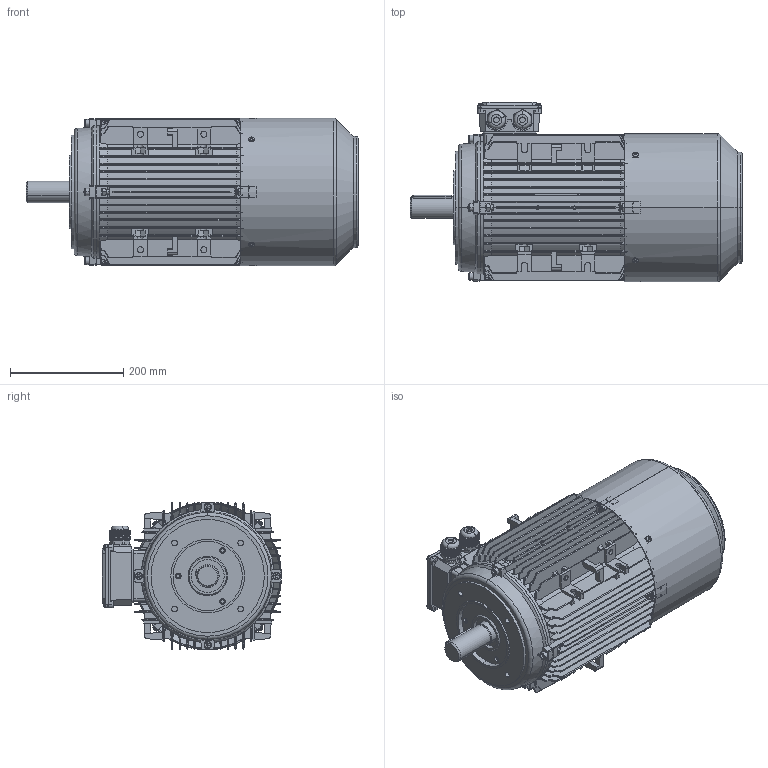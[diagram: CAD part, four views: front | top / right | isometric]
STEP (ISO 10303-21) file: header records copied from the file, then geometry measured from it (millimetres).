
FILE_DESCRIPTION (( 'STEP AP203' ), '1' );
FILE_NAME ('TB132M B14（风罩不带手柄孔）.STEP', '2021-10-26T01:41:45', ( '' ), ( '' ), 'SwSTEP 2.0', 'SolidWorks 2014', '' );
FILE_SCHEMA (( 'CONFIG_CONTROL_DESIGN' ));
Length unit declared in the file: millimetre
Products named in the file (14): Cross recessed thread forming screws GB_GB_CROSS_SCREWS_TYPE138 M5X12-N; TB132M B14（风罩不带手柄孔）; T132M儂褲; MS132諉盄碟裔; Hexagon socket head cap screws GB_GB_FASTENER_SCREWS_HSHCS M8X35-N; 112怢宒瑞珔; Plain parallel keys_GB_CONNECTING_PIECE_KEYS_CSK 10X70; TB132綴裔; TB132M蛌粣; Hexagon nuts grade C GB_GB_FASTENER_NUT_SNC1 M8-N; TA132B14楊擘1; MS132諉盄碟釱; 112-132堤盄蹟杶; TB132瑞欶(祥湍忒梟謂)
Assembly tree (35 placements, depth 2):
  TB132M B14（风罩不带手柄孔）
    T132M儂褲
    TB132綴裔
    112-132堤盄蹟杶  x2
    Hexagon socket head cap screws GB_GB_FASTENER_SCREWS_HSHCS M8X35-N  x8
    Hexagon nuts grade C GB_GB_FASTENER_NUT_SNC1 M8-N  x8
    Cross recessed thread forming screws GB_GB_CROSS_SCREWS_TYPE138 M5X12-N  x8
    Plain parallel keys_GB_CONNECTING_PIECE_KEYS_CSK 10X70
    MS132諉盄碟釱
    MS132諉盄碟裔
    TB132M蛌粣
    TB132瑞欶(祥湍忒梟謂)
    112怢宒瑞珔
    TA132B14楊擘1
Bounding box: 586 x 316.55 x 261.1 mm (x, y, z)
Volume: 3850730.3 mm3; surface area: 1927674.4 mm2
Topology: 35 solids, 35 shells, 5271 faces, 14388 edges, 9122 vertices
Faces by surface type: plane 2813, cylinder 1217, bspline 687, cone 345, torus 193, sphere 16
Entity records: 175027 total; most frequent: CARTESIAN_POINT 64019, ORIENTED_EDGE 24920, DIRECTION 19628, EDGE_CURVE 12460, VERTEX_POINT 7987, VECTOR 6860, LINE 6860, AXIS2_PLACEMENT_3D 6384
